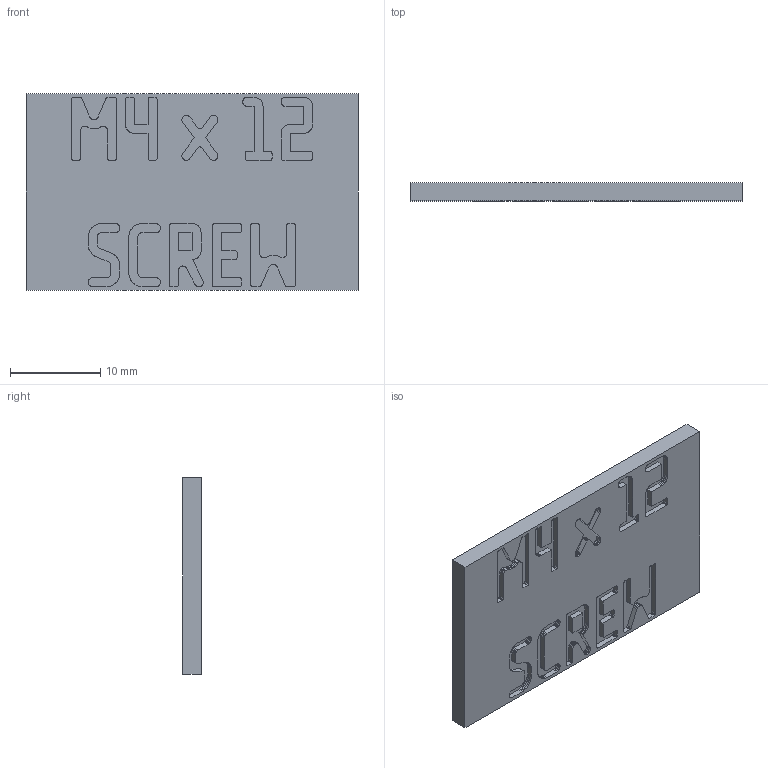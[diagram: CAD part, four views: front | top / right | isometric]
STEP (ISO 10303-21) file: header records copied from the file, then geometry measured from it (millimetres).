
FILE_DESCRIPTION(('Open CASCADE Model'),'2;1');
FILE_NAME('Open CASCADE Shape Model','2026-11-03T17:09:34',('Author'),( 'Open CASCADE'),'Open CASCADE STEP processor 8.0','build123d', 'Unknown');
FILE_SCHEMA(('AUTOMOTIVE_DESIGN { 1 0 10303 214 1 1 1 1 }'));
Length unit declared in the file: millimetre
Products named in the file (2): =>[0:1:1:2]; COMPOUND
Assembly tree (1 placements, depth 2):
  =>[0:1:1:2]
    COMPOUND
Bounding box: 36.8 x 2 x 21.8 mm (x, y, z)
Volume: 1520.9 mm3; surface area: 2003.3 mm2
Topology: 1 solids, 1 shells, 1087 faces, 3222 edges, 2148 vertices
Faces by surface type: plane 1087
Entity records: 77490 total; most frequent: CARTESIAN_POINT 12903, DIRECTION 11844, LINE 9666, VECTOR 9666, ORIENTED_EDGE 6444, PCURVE 6444, DEFINITIONAL_REPRESENTATION 6444, EDGE_CURVE 3222
